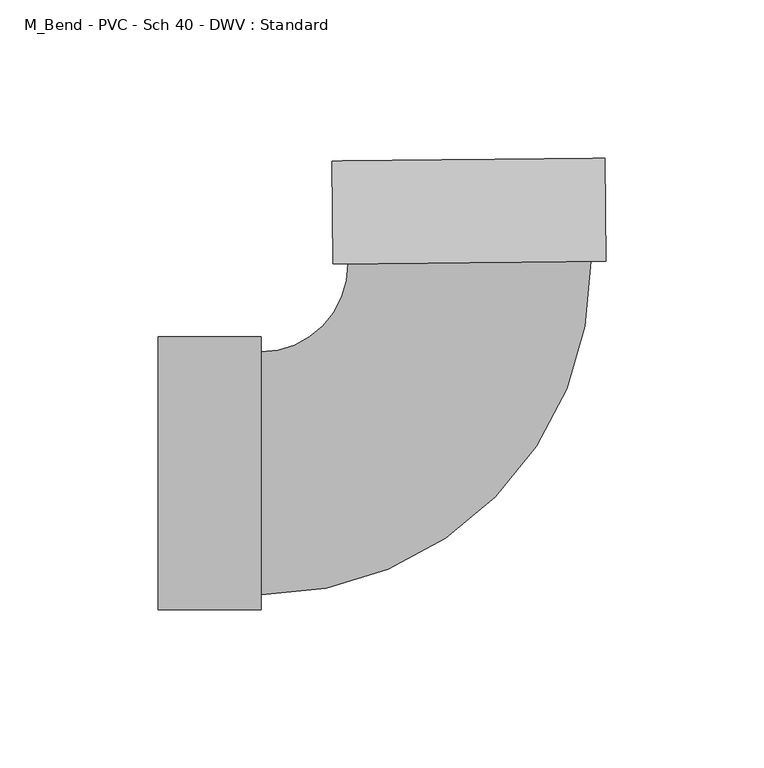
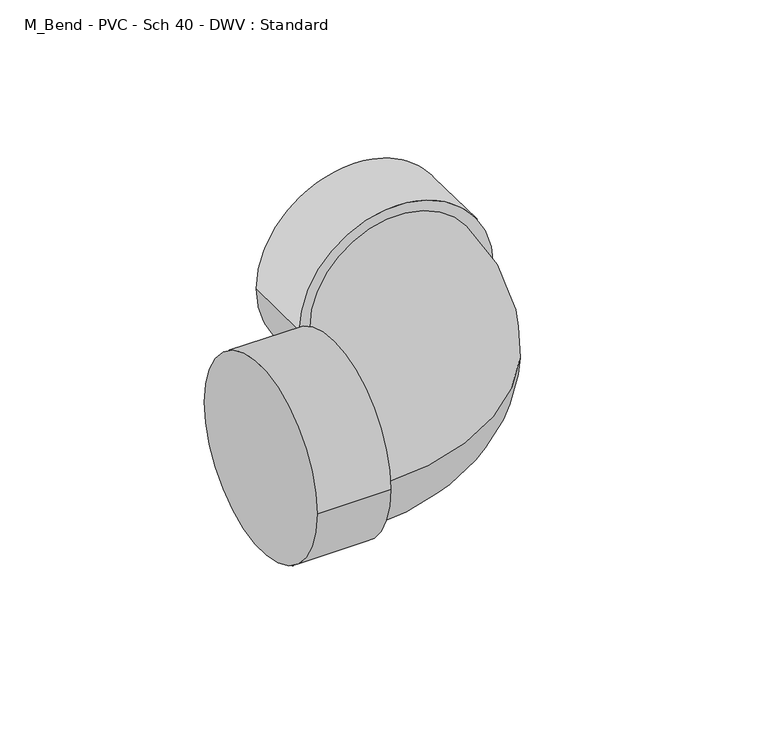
"""IFC4 building model written with IfcOpenShell, lengths in millimetres: pipe fitting geometry, M_Bend - PVC - Sch 40 - DWV : Standard."""

from ifc_helpers import new_model, si_unit, point, frame, origin, place, context, project, spatial, circle_curve, ellipse_curve, trimmed, source, transform, mapped, element, save
from ifc_brep_helpers import plane_surface, cylinder_surface, revolved_surface, advanced_brep


def m_bend_pvc_sch_40_dwv_standard_cec44c9e(model_context):
    return source(origin(), model_context, "Body", "AdvancedBrep", [
        advanced_brep(
        [(-99.0140625, -43.0871094, 0.0), (-99.0140625, 43.0871094, 0.0), (-66.5140625, -43.0871094, 0.0), (-66.5140625, 43.0871094, 0.0), (-66.5140625, -38.3640625, 0.0), (-66.5140625, 38.3640625, 0.0), (-39.0272518, 66.1271156, 0.0), (37.6970371, 66.8943585, 0.0), (42.4198478, 66.9415866, 0.0), (-43.7500626, 66.0798875, 0.0), (42.0948641, 99.4399617, 0.0), (-44.0750463, 98.5782626, 0.0)],
        [
            (0, 1, circle_curve(frame((-99.0140625, 0.0, 0.0), z_axis=(-1.0, 0.0, 0.0), x_axis=(0.0, 1.0, 0.0)), 43.0871094)),
            (1, 0, circle_curve(frame((-99.0140625, 0.0, 0.0), z_axis=(-1.0, 0.0, 0.0), x_axis=(0.0, 1.0, 0.0)), 43.0871094)),
            (2, 3, circle_curve(frame((-66.5140625, 0.0, 0.0), z_axis=(1.0, 0.0, 0.0), x_axis=(0.0, 1.0, 0.0)), 43.0871094)),
            (3, 2, circle_curve(frame((-66.5140625, 0.0, 0.0), z_axis=(1.0, 0.0, 0.0), x_axis=(0.0, 1.0, 0.0)), 43.0871094)),
            (4, 5, circle_curve(frame((-66.5140625, 0.0, 0.0), z_axis=(-1.0, 0.0, 0.0), x_axis=(0.0, 1.0, 0.0)), 38.3640625)),
            (5, 4, circle_curve(frame((-66.5140625, 0.0, 0.0), z_axis=(-1.0, 0.0, 0.0), x_axis=(0.0, 1.0, 0.0)), 38.3640625)),
            (0, 2),
            (3, 1),
            (6, 5, circle_curve(frame((-66.5140625, 65.8522475, 0.0), z_axis=(0.0, 0.0, -1.0), x_axis=(0.0, -1.0, 0.0)), 27.488185)),
            (4, 7, circle_curve(frame((-66.5140625, 65.8522475, 0.0), z_axis=(0.0, 0.0, 1.0), x_axis=(0.0, -1.0, 0.0)), 104.21631)),
            (7, 6, circle_curve(frame((-0.6651074, 66.510737, 0.0), z_axis=(0.009999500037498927, -0.9999500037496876, 0.0), x_axis=(-0.9999500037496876, -0.009999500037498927, 0.0)), 38.3640625)),
            (6, 7, circle_curve(frame((-0.6651074, 66.510737, 0.0), z_axis=(0.009999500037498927, -0.9999500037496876, 0.0), x_axis=(-0.9999500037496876, -0.009999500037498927, 0.0)), 38.3640625)),
            (8, 9, circle_curve(frame((-0.6651074, 66.510737, 0.0), z_axis=(0.009999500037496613, -0.9999500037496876, 0.0), x_axis=(-0.9999500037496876, -0.009999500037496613, 0.0)), 43.0871094)),
            (9, 8, circle_curve(frame((-0.6651074, 66.510737, 0.0), z_axis=(0.009999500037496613, -0.9999500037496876, 0.0), x_axis=(-0.9999500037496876, -0.009999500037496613, 0.0)), 43.0871094)),
            (10, 11, circle_curve(frame((-0.9900911, 99.0091122, 0.0), z_axis=(-0.009999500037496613, 0.9999500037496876, 0.0), x_axis=(-0.9999500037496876, -0.009999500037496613, 0.0)), 43.0871094)),
            (11, 10, circle_curve(frame((-0.9900911, 99.0091122, 0.0), z_axis=(-0.009999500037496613, 0.9999500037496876, 0.0), x_axis=(-0.9999500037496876, -0.009999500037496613, 0.0)), 43.0871094)),
            (8, 10),
            (11, 9),
        ],
        [
            plane_surface(frame((-99.0140625, 0.0, 0.0), z_axis=(-1.0, 0.0, 0.0), x_axis=(0.0, 0.0, 1.0))),
            plane_surface(frame((-66.5140625, 0.0, 0.0), z_axis=(1.0, 0.0, 0.0), x_axis=(0.0, 0.0, 1.0))),
            cylinder_surface(frame((-99.0140625, 0.0, 0.0), z_axis=(-1.0, 0.0, 0.0), x_axis=(0.0, 1.0, 0.0)), 43.0871094),
            revolved_surface(trimmed(ellipse_curve(frame((-66.5140625, 0.0, 0.0), z_axis=(-1.0, 0.0, 0.0), x_axis=(0.0, 1.0, 0.0)), 38.3640625, 38.3640625), [point((-66.5140625, -38.3640625, 0.0))], [point((-66.5140625, 38.3640625, 0.0))], True, "CARTESIAN"), (-66.5140625, 65.8522475, 0.0), (0.0, 0.0, 1.0)),
            revolved_surface(trimmed(ellipse_curve(frame((-66.5140625, 0.0, 0.0), z_axis=(-1.0, 0.0, 0.0), x_axis=(0.0, 1.0, 0.0)), 38.3640625, 38.3640625), [point((-66.5140625, 38.3640625, 0.0))], [point((-66.5140625, -38.3640625, 0.0))], True, "CARTESIAN"), (-66.5140625, 65.8522475, 0.0), (0.0, 0.0, 1.0)),
            plane_surface(frame((-0.6651074, 66.510737, 0.0), z_axis=(0.009999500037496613, -0.9999500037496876, 0.0), x_axis=(0.0, 0.0, 1.0))),
            plane_surface(frame((-0.9900911, 99.0091122, 0.0), z_axis=(-0.009999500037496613, 0.9999500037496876, 0.0), x_axis=(0.0, 0.0, 1.0))),
            cylinder_surface(frame((-0.6651074, 66.510737, 0.0), z_axis=(0.009999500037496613, -0.9999500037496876, 0.0), x_axis=(-0.9999500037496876, -0.009999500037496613, 0.0)), 43.0871094),
        ],
        [
            (0, [[1, 2]]),
            (1, [[3, 4], [5, 6]]),
            (2, [[-1, 7, -4, 8]]),
            (2, [[-2, -8, -3, -7]]),
            (3, [[9, -5, 10, 11]]),
            (4, [[-9, 12, -10, -6]]),
            (5, [[13, 14], [-11, -12]]),
            (6, [[15, 16]]),
            (7, [[-13, 17, -16, 18]]),
            (7, [[-14, -18, -15, -17]]),
        ],
    ),
    ])


if __name__ == "__main__":
    model = new_model("IFC4")
    model_context = context("Model", 3, world=origin())
    ifc_project = project(units=[si_unit("LENGTHUNIT", "METRE", prefix="MILLI")], contexts=[model_context])
    site = spatial("IfcSite", under=ifc_project)
    building = spatial("IfcBuilding", under=site)
    placement = place(None, origin())
    m_bend_pvc_sch_40_dwv_standard_shape = m_bend_pvc_sch_40_dwv_standard_cec44c9e(model_context)
    element("IfcPipeFitting", 1, ObjectType="M_Bend - PVC - Sch 40 - DWV : Standard", at=placement, inside=building, context=model_context, shape_type="MappedRepresentation", body=[
        mapped(m_bend_pvc_sch_40_dwv_standard_shape, transform((0.0, 0.0, 0.0), x_axis=(1.0, 0.0, 0.0), y_axis=(0.0, 1.0, 0.0), z_axis=(0.0, 0.0, 1.0))),
    ])
    save(model, "model.ifc")
